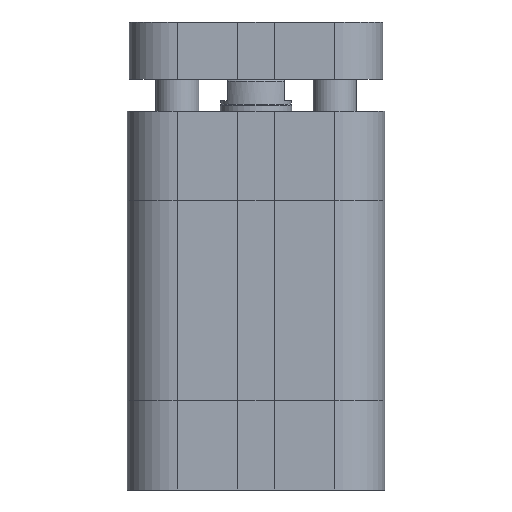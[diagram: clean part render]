
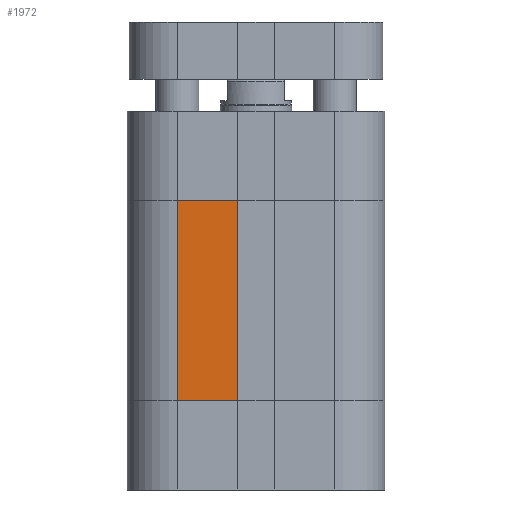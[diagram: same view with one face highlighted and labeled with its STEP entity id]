
A CAD part, front view. The second image highlights one B-rep face of the part: STEP entity #1972.
In plain terms, the highlighted planar face has unit normal (0, -1, 0).
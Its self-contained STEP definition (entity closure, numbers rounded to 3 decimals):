
#1883=CARTESIAN_POINT('',(-11.0,-18.,12.5));
#1884=VERTEX_POINT('',#1883);
#1892=CARTESIAN_POINT('',(-11.0,-18.,40.5));
#1893=VERTEX_POINT('',#1892);
#1894=CARTESIAN_POINT('',(-11.0,-18.,12.5));
#1895=DIRECTION('',(0.0,0.0,1.0));
#1896=VECTOR('',#1895,28.);
#1897=LINE('',#1894,#1896);
#1898=EDGE_CURVE('',#1884,#1893,#1897,.T.);
#1942=CARTESIAN_POINT('',(-2.6,-18.0,0.0));
#1943=DIRECTION('',(0.0,-1.0,0.0));
#1944=DIRECTION('',(0.0,0.0,-1.0));
#1945=AXIS2_PLACEMENT_3D('',#1942,#1943,#1944);
#1946=PLANE('',#1945);
#1947=CARTESIAN_POINT('',(-2.6,-18.0,12.5));
#1948=VERTEX_POINT('',#1947);
#1949=CARTESIAN_POINT('',(-11.0,-18.,12.5));
#1950=DIRECTION('',(1.0,0.0,0.0));
#1951=VECTOR('',#1950,8.4);
#1952=LINE('',#1949,#1951);
#1953=EDGE_CURVE('',#1884,#1948,#1952,.T.);
#1954=ORIENTED_EDGE('',*,*,#1953,.T.);
#1955=CARTESIAN_POINT('',(-2.6,-18.0,40.5));
#1956=VERTEX_POINT('',#1955);
#1957=CARTESIAN_POINT('',(-2.6,-18.0,12.5));
#1958=DIRECTION('',(0.0,0.0,1.0));
#1959=VECTOR('',#1958,28.);
#1960=LINE('',#1957,#1959);
#1961=EDGE_CURVE('',#1948,#1956,#1960,.T.);
#1962=ORIENTED_EDGE('',*,*,#1961,.T.);
#1963=CARTESIAN_POINT('',(-11.0,-18.,40.5));
#1964=DIRECTION('',(1.0,0.0,0.0));
#1965=VECTOR('',#1964,8.4);
#1966=LINE('',#1963,#1965);
#1967=EDGE_CURVE('',#1893,#1956,#1966,.T.);
#1968=ORIENTED_EDGE('',*,*,#1967,.F.);
#1969=ORIENTED_EDGE('',*,*,#1898,.F.);
#1970=EDGE_LOOP('',(#1954,#1962,#1968,#1969));
#1971=FACE_OUTER_BOUND('',#1970,.T.);
#1972=ADVANCED_FACE('',(#1971),#1946,.T.);
